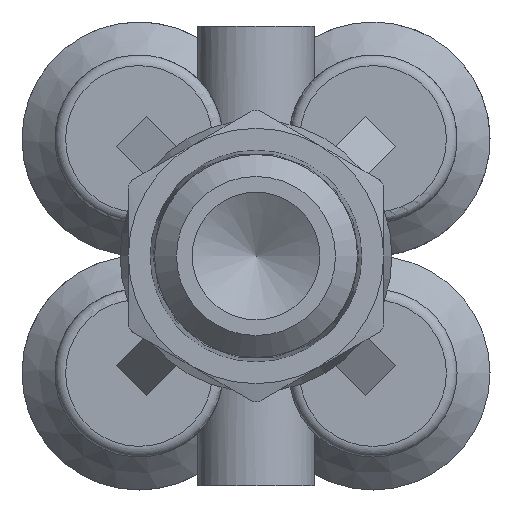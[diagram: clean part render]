
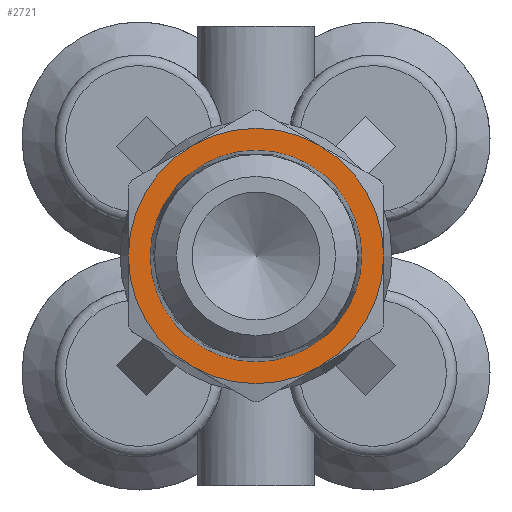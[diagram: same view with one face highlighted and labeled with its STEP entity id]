
A CAD part, left-side view. The second image highlights one B-rep face of the part: STEP entity #2721.
In plain terms, the highlighted planar face has unit normal (-1, 0, 0).
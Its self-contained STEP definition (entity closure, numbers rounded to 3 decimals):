
#1131=CARTESIAN_POINT('',(-21.,4.973,0.0));
#1132=VERTEX_POINT('',#1131);
#1133=CARTESIAN_POINT('',(-21.,0.0,0.0));
#1134=DIRECTION('',(1.0,0.0,0.0));
#1135=DIRECTION('',(0.0,1.0,0.0));
#1136=AXIS2_PLACEMENT_3D('',#1133,#1134,#1135);
#1137=CIRCLE('',#1136,4.973);
#1138=EDGE_CURVE('',#1132,#1132,#1137,.T.);
#1206=CARTESIAN_POINT('',(-21.,-6.,0.));
#1207=VERTEX_POINT('',#1206);
#1221=CARTESIAN_POINT('',(-21.,-3.,-5.196));
#1222=VERTEX_POINT('',#1221);
#1223=CARTESIAN_POINT('',(-21.,0.0,0.0));
#1224=DIRECTION('',(1.0,0.0,0.0));
#1225=DIRECTION('',(0.0,1.0,0.0));
#1226=AXIS2_PLACEMENT_3D('',#1223,#1224,#1225);
#1227=CIRCLE('',#1226,6.);
#1228=EDGE_CURVE('',#1207,#1222,#1227,.T.);
#1380=CARTESIAN_POINT('',(-21.,3.,-5.196));
#1381=VERTEX_POINT('',#1380);
#1382=CARTESIAN_POINT('',(-21.,0.0,0.0));
#1383=DIRECTION('',(1.0,0.0,0.0));
#1384=DIRECTION('',(0.0,1.0,0.0));
#1385=AXIS2_PLACEMENT_3D('',#1382,#1383,#1384);
#1386=CIRCLE('',#1385,6.);
#1387=EDGE_CURVE('',#1222,#1381,#1386,.T.);
#1518=CARTESIAN_POINT('',(-21.,6.,0.0));
#1519=VERTEX_POINT('',#1518);
#1520=CARTESIAN_POINT('',(-21.,0.0,0.0));
#1521=DIRECTION('',(1.0,0.0,0.0));
#1522=DIRECTION('',(0.0,1.0,0.0));
#1523=AXIS2_PLACEMENT_3D('',#1520,#1521,#1522);
#1524=CIRCLE('',#1523,6.);
#1525=EDGE_CURVE('',#1381,#1519,#1524,.T.);
#1656=CARTESIAN_POINT('',(-21.,3.,5.196));
#1657=VERTEX_POINT('',#1656);
#1658=CARTESIAN_POINT('',(-21.,0.0,0.0));
#1659=DIRECTION('',(1.0,0.0,0.0));
#1660=DIRECTION('',(0.0,1.0,0.0));
#1661=AXIS2_PLACEMENT_3D('',#1658,#1659,#1660);
#1662=CIRCLE('',#1661,6.);
#1663=EDGE_CURVE('',#1519,#1657,#1662,.T.);
#1794=CARTESIAN_POINT('',(-21.,-3.,5.196));
#1795=VERTEX_POINT('',#1794);
#1796=CARTESIAN_POINT('',(-21.,0.0,0.0));
#1797=DIRECTION('',(1.0,0.0,0.0));
#1798=DIRECTION('',(0.0,1.0,0.0));
#1799=AXIS2_PLACEMENT_3D('',#1796,#1797,#1798);
#1800=CIRCLE('',#1799,6.);
#1801=EDGE_CURVE('',#1657,#1795,#1800,.T.);
#2071=CARTESIAN_POINT('',(-21.,0.0,0.0));
#2072=DIRECTION('',(1.0,0.0,0.0));
#2073=DIRECTION('',(0.0,1.0,0.0));
#2074=AXIS2_PLACEMENT_3D('',#2071,#2072,#2073);
#2075=CIRCLE('',#2074,6.);
#2076=EDGE_CURVE('',#1795,#1207,#2075,.T.);
#2705=CARTESIAN_POINT('',(-21.,5.486,0.0));
#2706=DIRECTION('',(-1.0,0.0,0.0));
#2707=DIRECTION('',(0.0,0.0,1.0));
#2708=AXIS2_PLACEMENT_3D('',#2705,#2706,#2707);
#2709=PLANE('',#2708);
#2710=ORIENTED_EDGE('',*,*,#1663,.F.);
#2711=ORIENTED_EDGE('',*,*,#1525,.F.);
#2712=ORIENTED_EDGE('',*,*,#1387,.F.);
#2713=ORIENTED_EDGE('',*,*,#1228,.F.);
#2714=ORIENTED_EDGE('',*,*,#2076,.F.);
#2715=ORIENTED_EDGE('',*,*,#1801,.F.);
#2716=EDGE_LOOP('',(#2710,#2711,#2712,#2713,#2714,#2715));
#2717=FACE_OUTER_BOUND('',#2716,.T.);
#2718=ORIENTED_EDGE('',*,*,#1138,.T.);
#2719=EDGE_LOOP('',(#2718));
#2720=FACE_BOUND('',#2719,.T.);
#2721=ADVANCED_FACE('',(#2717,#2720),#2709,.T.);
